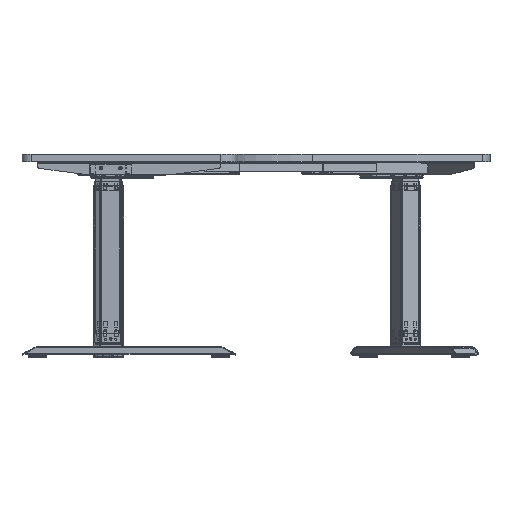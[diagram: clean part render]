
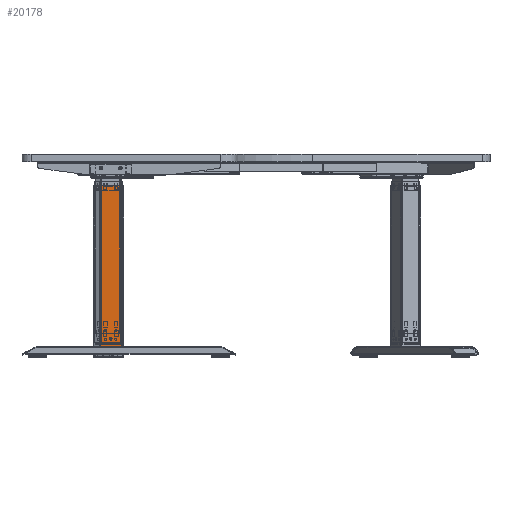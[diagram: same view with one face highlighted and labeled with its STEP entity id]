
A CAD part, front view. The second image highlights one B-rep face of the part: STEP entity #20178.
In plain terms, the highlighted planar face has unit normal (0, -1, 0).
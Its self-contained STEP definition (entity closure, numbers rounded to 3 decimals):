
#20064=CARTESIAN_POINT('Vertex',(-34.5,-37.5,526.)) ;
#20071=CARTESIAN_POINT('Vertex',(-34.5,-37.5,0.)) ;
#20074=CARTESIAN_POINT('Line Origine',(-34.5,-37.5,263.)) ;
#20148=CARTESIAN_POINT('Axis2P3D Location',(37.5,-37.5,0.)) ;
#20153=CARTESIAN_POINT('Line Origine',(34.5,-37.5,263.)) ;
#20157=CARTESIAN_POINT('Vertex',(34.5,-37.5,0.)) ;
#20159=CARTESIAN_POINT('Vertex',(34.5,-37.5,526.)) ;
#20162=CARTESIAN_POINT('Line Origine',(0.,-37.5,526.)) ;
#20167=CARTESIAN_POINT('Line Origine',(0.,-37.5,0.)) ;
#20075=DIRECTION('Vector Direction',(0.,0.,1.)) ;
#20149=DIRECTION('Axis2P3D Direction',(0.,1.,-0.)) ;
#20150=DIRECTION('Axis2P3D XDirection',(-1.,0.,0.)) ;
#20154=DIRECTION('Vector Direction',(0.,0.,1.)) ;
#20163=DIRECTION('Vector Direction',(-1.,0.,0.)) ;
#20168=DIRECTION('Vector Direction',(-1.,0.,0.)) ;
#20151=AXIS2_PLACEMENT_3D('Plane Axis2P3D',#20148,#20149,#20150) ;
#20173=ORIENTED_EDGE('',*,*,#20161,.T.) ;
#20174=ORIENTED_EDGE('',*,*,#20166,.F.) ;
#20175=ORIENTED_EDGE('',*,*,#20078,.F.) ;
#20176=ORIENTED_EDGE('',*,*,#20171,.T.) ;
#20076=VECTOR('Line Direction',#20075,1.) ;
#20155=VECTOR('Line Direction',#20154,1.) ;
#20164=VECTOR('Line Direction',#20163,1.) ;
#20169=VECTOR('Line Direction',#20168,1.) ;
#20178=ADVANCED_FACE('\X2\96F64EF651E04F554F53\X0\',(#20177),#20152,.F.) ;
#20078=EDGE_CURVE('',#20072,#20065,#20077,.T.) ;
#20161=EDGE_CURVE('',#20158,#20160,#20156,.T.) ;
#20166=EDGE_CURVE('',#20065,#20160,#20165,.F.) ;
#20171=EDGE_CURVE('',#20072,#20158,#20170,.F.) ;
#20172=EDGE_LOOP('',(#20173,#20174,#20175,#20176)) ;
#20177=FACE_OUTER_BOUND('',#20172,.T.) ;
#20077=LINE('Line',#20074,#20076) ;
#20156=LINE('Line',#20153,#20155) ;
#20165=LINE('Line',#20162,#20164) ;
#20170=LINE('Line',#20167,#20169) ;
#20152=PLANE('',#20151) ;
#20065=VERTEX_POINT('',#20064) ;
#20072=VERTEX_POINT('',#20071) ;
#20158=VERTEX_POINT('',#20157) ;
#20160=VERTEX_POINT('',#20159) ;
